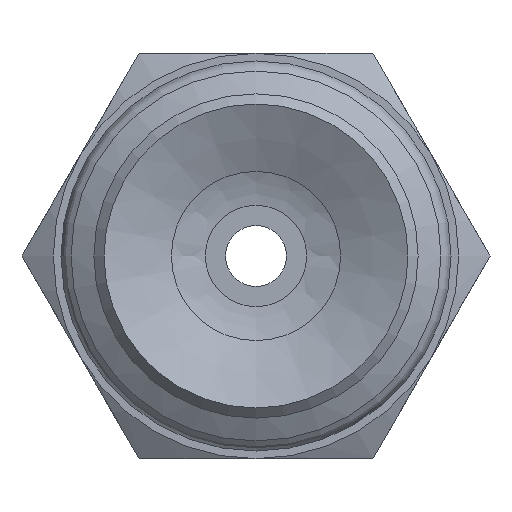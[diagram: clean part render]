
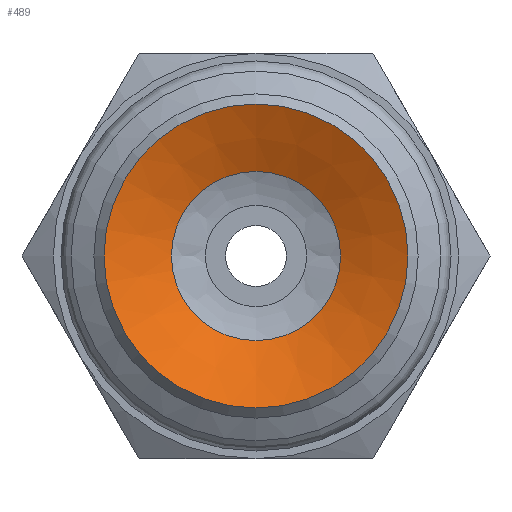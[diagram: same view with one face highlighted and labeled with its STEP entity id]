
A CAD part, front view. The second image highlights one B-rep face of the part: STEP entity #489.
In plain terms, the highlighted conical face has half-angle 64.998 degrees and reference radius 1.285 mm.
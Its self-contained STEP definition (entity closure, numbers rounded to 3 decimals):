
#489=ADVANCED_FACE('',(#719,#720),#721,.F.);
#719=FACE_BOUND('',#984,.T.);
#720=FACE_OUTER_BOUND('',#985,.T.);
#721=CONICAL_SURFACE('',#986,1.285,1.134);
#984=EDGE_LOOP('',(#1572));
#985=EDGE_LOOP('',(#1573));
#986=AXIS2_PLACEMENT_3D('',#1574,#1575,#1576);
#1572=ORIENTED_EDGE('',*,*,#1733,.T.);
#1573=ORIENTED_EDGE('',*,*,#1732,.T.);
#1574=CARTESIAN_POINT('',(0.0,0.8,0.0));
#1575=DIRECTION('',(-0.0,-1.0,0.));
#1576=DIRECTION('',(0.0,0.,-1.0));
#1732=EDGE_CURVE('',#1995,#1995,#1996,.T.);
#1733=EDGE_CURVE('',#1997,#1997,#1998,.T.);
#1995=VERTEX_POINT('',#2561);
#1996=CIRCLE('',#2562,3.);
#1997=VERTEX_POINT('',#2563);
#1998=CIRCLE('',#2564,1.67);
#2561=CARTESIAN_POINT('',(0.0,0.,-3.));
#2562=AXIS2_PLACEMENT_3D('',#2811,#2812,#2813);
#2563=CARTESIAN_POINT('',(0.0,0.62,-1.67));
#2564=AXIS2_PLACEMENT_3D('',#2814,#2815,#2816);
#2811=CARTESIAN_POINT('',(0.0,0.0,0.0));
#2812=DIRECTION('',(0.0,-1.0,0.));
#2813=DIRECTION('',(0.0,0.,-1.0));
#2814=CARTESIAN_POINT('',(0.0,0.62,0.0));
#2815=DIRECTION('',(0.0,1.0,0.));
#2816=DIRECTION('',(0.0,0.,-1.0));
